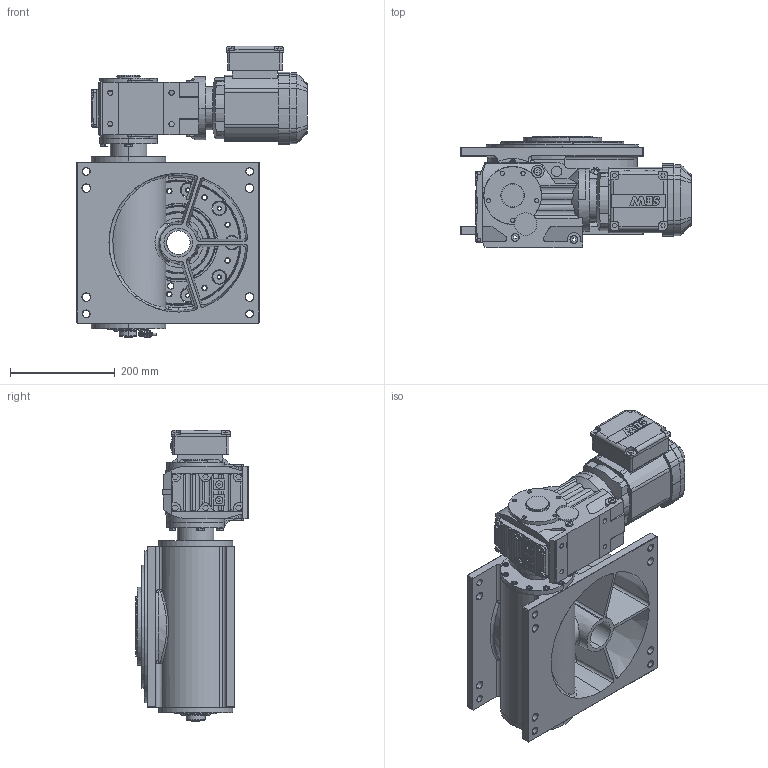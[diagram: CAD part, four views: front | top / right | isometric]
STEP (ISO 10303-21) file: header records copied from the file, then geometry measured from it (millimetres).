
FILE_DESCRIPTION (( 'STEP AP214' ), '1' );
FILE_NAME ('M235_SEW_KA37DRS71S4_D1_09.STEP', '2020-06-17T05:08:31', ( '' ), ( '' ), 'SwSTEP 2.0', 'SolidWorks 2020', '' );
FILE_SCHEMA (( 'AUTOMOTIVE_DESIGN' ));
Length unit declared in the file: millimetre
Products named in the file (1): M235_SEW_KA37DRS71S4_D1_09
Bounding box: 440 x 214 x 557.5 mm (x, y, z)
Surface area: 1079451.3 mm2 (no closed solid volume)
Topology: 0 solids, 90 shells, 1708 faces, 5094 edges, 3383 vertices
Faces by surface type: plane 678, cylinder 570, cone 260, bspline 108, torus 76, sphere 16
Entity records: 86801 total; most frequent: CARTESIAN_POINT 23054, DIRECTION 9436, ORIENTED_EDGE 8710, EDGE_CURVE 5041, AXIS2_PLACEMENT_3D 3438, VERTEX_POINT 3383, VECTOR 2560, LINE 2560
